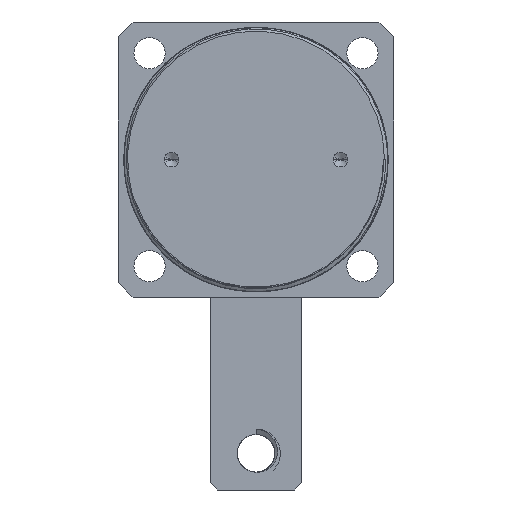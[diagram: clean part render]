
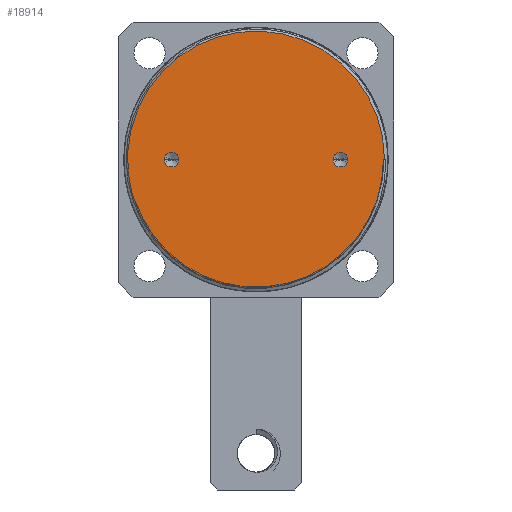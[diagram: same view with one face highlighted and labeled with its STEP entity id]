
A CAD part, front view. The second image highlights one B-rep face of the part: STEP entity #18914.
In plain terms, the highlighted planar face has unit normal (0, -1, 0).
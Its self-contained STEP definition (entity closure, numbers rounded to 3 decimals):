
#9239=CARTESIAN_POINT('',(23.,-91.5,0.));
#9240=DIRECTION('',(0.,1.,0.));
#9241=DIRECTION('',(1.,0.,0.));
#9242=AXIS2_PLACEMENT_3D('',#9239,#9240,#9241);
#9244=CARTESIAN_POINT('',(23.,-91.5,0.));
#9245=DIRECTION('',(0.,1.,0.));
#9246=DIRECTION('',(-1.,0.,0.));
#9247=AXIS2_PLACEMENT_3D('',#9244,#9245,#9246);
#9249=CARTESIAN_POINT('',(-23.,-91.5,0.));
#9250=DIRECTION('',(0.,-1.,0.));
#9251=DIRECTION('',(-1.,0.,0.));
#9252=AXIS2_PLACEMENT_3D('',#9249,#9250,#9251);
#9254=CARTESIAN_POINT('',(-23.,-91.5,0.));
#9255=DIRECTION('',(0.,-1.,0.));
#9256=DIRECTION('',(1.,0.,0.));
#9257=AXIS2_PLACEMENT_3D('',#9254,#9255,#9256);
#9259=DIRECTION('',(-1.,0.,0.));
#9260=VECTOR('',#9259,0.272);
#9261=CARTESIAN_POINT('',(35.007,-91.5,0.));
#9262=LINE('',#9261,#9260);
#9263=CARTESIAN_POINT('',(27.69,-91.5,-21.419));
#9264=CARTESIAN_POINT('',(28.504,-91.5,-20.341));
#9265=CARTESIAN_POINT('',(29.97,-91.5,-18.138));
#9266=CARTESIAN_POINT('',(31.715,-91.5,-14.765));
#9267=CARTESIAN_POINT('',(33.086,-91.5,-11.227));
#9268=CARTESIAN_POINT('',(34.068,-91.5,-7.552));
#9269=CARTESIAN_POINT('',(34.642,-91.5,-3.79));
#9270=CARTESIAN_POINT('',(34.75,-91.5,-1.268));
#9271=CARTESIAN_POINT('',(34.735,-91.5,0.));
#9333=CARTESIAN_POINT('',(0.,-91.5,0.));
#9334=DIRECTION('',(0.,-1.,0.));
#9335=DIRECTION('',(1.,0.,0.));
#9336=AXIS2_PLACEMENT_3D('',#9333,#9334,#9335);
#11665=CARTESIAN_POINT('',(25.,-91.5,0.));
#11666=CARTESIAN_POINT('',(21.,-91.5,0.));
#11667=VERTEX_POINT('',#11665);
#11668=VERTEX_POINT('',#11666);
#11675=CARTESIAN_POINT('',(-25.,-91.5,0.));
#11676=CARTESIAN_POINT('',(-21.,-91.5,0.));
#11677=VERTEX_POINT('',#11675);
#11678=VERTEX_POINT('',#11676);
#11692=CARTESIAN_POINT('',(35.007,-91.5,0.));
#11693=CARTESIAN_POINT('',(34.735,-91.5,0.));
#11694=VERTEX_POINT('',#11692);
#11695=VERTEX_POINT('',#11693);
#11696=VERTEX_POINT('',#9263);
#18890=CARTESIAN_POINT('',(0.,-91.5,0.));
#18891=DIRECTION('',(0.,-1.,0.));
#18892=DIRECTION('',(-1.,0.,0.));
#18893=AXIS2_PLACEMENT_3D('',#18890,#18891,#18892);
#18894=PLANE('',#18893);
#18896=ORIENTED_EDGE('',*,*,#18895,.T.);
#18897=ORIENTED_EDGE('',*,*,#18873,.F.);
#18899=ORIENTED_EDGE('',*,*,#18898,.F.);
#18900=EDGE_LOOP('',(#18896,#18897,#18899));
#18901=FACE_OUTER_BOUND('',#18900,.F.);
#18903=ORIENTED_EDGE('',*,*,#18902,.F.);
#18905=ORIENTED_EDGE('',*,*,#18904,.F.);
#18906=EDGE_LOOP('',(#18903,#18905));
#18907=FACE_BOUND('',#18906,.F.);
#18909=ORIENTED_EDGE('',*,*,#18908,.T.);
#18911=ORIENTED_EDGE('',*,*,#18910,.T.);
#18912=EDGE_LOOP('',(#18909,#18911));
#18913=FACE_BOUND('',#18912,.F.);
#18914=ADVANCED_FACE('',(#18901,#18907,#18913),#18894,.T.);
#9243=CIRCLE('',#9242,2.);
#9248=CIRCLE('',#9247,2.);
#9253=CIRCLE('',#9252,2.);
#9258=CIRCLE('',#9257,2.);
#9272=B_SPLINE_CURVE_WITH_KNOTS('',3,(#9263,#9264,#9265,#9266,#9267,#9268,#9269,
#9270,#9271),.UNSPECIFIED.,.F.,.F.,(4,1,1,1,1,1,4),(0.,0.167,
0.333,0.5,0.667,0.833,1.),
.UNSPECIFIED.);
#9337=CIRCLE('',#9336,35.007);
#18873=EDGE_CURVE('',#11696,#11695,#9272,.T.);
#18895=EDGE_CURVE('',#11694,#11695,#9262,.T.);
#18898=EDGE_CURVE('',#11694,#11696,#9337,.T.);
#18902=EDGE_CURVE('',#11667,#11668,#9243,.T.);
#18904=EDGE_CURVE('',#11668,#11667,#9248,.T.);
#18908=EDGE_CURVE('',#11677,#11678,#9253,.T.);
#18910=EDGE_CURVE('',#11678,#11677,#9258,.T.);
